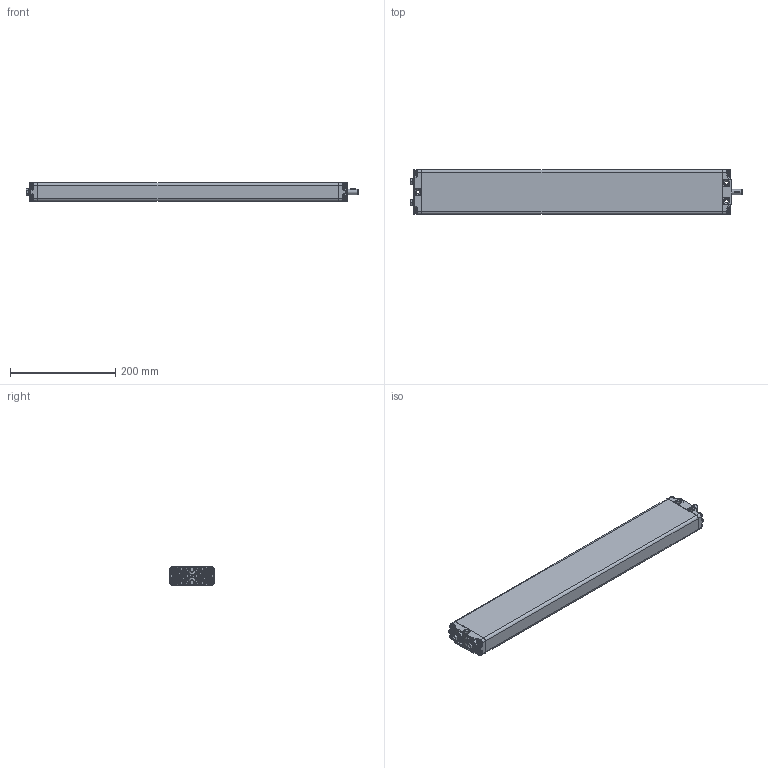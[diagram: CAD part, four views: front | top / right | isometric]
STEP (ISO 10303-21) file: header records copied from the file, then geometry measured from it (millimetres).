
FILE_DESCRIPTION(/* description */ ('Unknown'),/* implementation_level */ '2;1');
FILE_NAME(/* name */ '100.20004 Pumpe PA 2840 W',/* time_stamp */ '2016-08-09T10:13:34+02:00',/* author */ ('Unknown'),/* organization */ ('Unknown'),/* preprocessor_version */ 'ST-DEVELOPER v16.7',/* originating_system */ 'DEX',/* authorisation */ $);
FILE_SCHEMA (('AUTOMOTIVE_DESIGN {1 0 10303 214 3 1 1}'));
Products named in the file (13): 100.20004; 115.00034; 125.00045; 115.00008; 142.00021; 125.00021; 142.00013; 125.00144; 122.00040; 126.00002; 119.00024; 126.00001; 142.00057
Assembly tree (20 placements, depth 3):
  100.20004
    115.00034  x2
      125.00045
      115.00008
      142.00021
      125.00021
    142.00013  x8
    125.00144
    122.00040
    126.00002
    119.00024
    126.00001
    142.00057
Bounding box: 629.47 x 85 x 35 mm (x, y, z)
Volume: 570619 mm3; surface area: 333707.5 mm2
Topology: 20 solids, 20 shells, 1902 faces, 4389 edges, 2487 vertices
Faces by surface type: plane 554, bspline 477, cylinder 436, cone 285, torus 104, sphere 46
Full cylindrical faces by diameter (mm): 3.5 x2, 4.1 x2, 4.2 x2, 5 x8, 6.917 x4, 8 x5, 9.8 x8, 10 x3, 10.4 x1, 14 x1, 14.4 x2, 17.3 x2, 17.9 x4, 18 x1, 19 x1
Entity records: 64745 total; most frequent: CARTESIAN_POINT 37610, ORIENTED_EDGE 5746, DIRECTION 4625, EDGE_CURVE 2873, AXIS2_PLACEMENT_3D 1895, VERTEX_POINT 1746, FACE_BOUND 1459, EDGE_LOOP 1458
